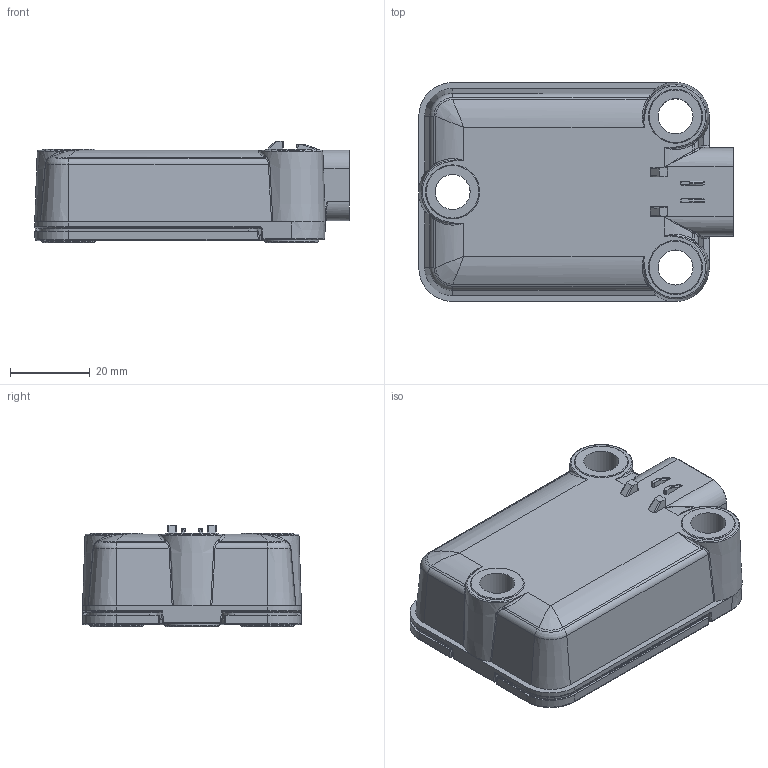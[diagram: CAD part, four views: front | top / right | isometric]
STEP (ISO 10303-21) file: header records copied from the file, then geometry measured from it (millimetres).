
FILE_DESCRIPTION(/* description */ (''),/* implementation_level */ '2;1');
FILE_NAME(/* name */ '\\platypus\CAD\Drawings\Projects\3065\3065-0193\3065-0193-NO-INTERNALS.stp',/* time_stamp */ '2019-05-16T05:27:33-07:00',/* author */ ('Joseph_Beckwith'),/* organization */ (''),/* preprocessor_version */ 'ST-DEVELOPER v16.5',/* originating_system */ 'Autodesk Inventor 2017',/* authorisation */ '');
FILE_SCHEMA (('AUTOMOTIVE_DESIGN { 1 0 10303 214 3 1 1 }'));
Products named in the file (6): 3065-0193; 3065-0193_1; 3065-0278_FINAL_WITH_COMPRESSION_LIMITERS; 3065-0285_connector-board_rev.B_2018-11-26-A; 9200-0010; 3065-0279
Assembly tree (5 placements, depth 3):
  3065-0193
    3065-0193_1
      3065-0278_FINAL_WITH_COMPRESSION_LIMITERS
      3065-0285_connector-board_rev.B_2018-11-26-A
      9200-0010
    3065-0279
Bounding box: 79 x 55 x 25.5 mm (x, y, z)
Volume: 31107.5 mm3; surface area: 29881.1 mm2
Topology: 4 solids, 4 shells, 1467 faces, 3454 edges, 1953 vertices
Faces by surface type: cylinder 438, plane 351, bspline 324, torus 201, cone 109, sphere 44
Full cylindrical faces by diameter (mm): 1.524 x8, 1.575 x4, 1.905 x4, 2.388 x4, 8.8 x3, 13.6 x6
Entity records: 48734 total; most frequent: CARTESIAN_POINT 16410, DIRECTION 6752, ORIENTED_EDGE 6522, EDGE_CURVE 3261, AXIS2_PLACEMENT_3D 2748, VERTEX_POINT 1941, EDGE_LOOP 1634, FACE_OUTER_BOUND 1467
